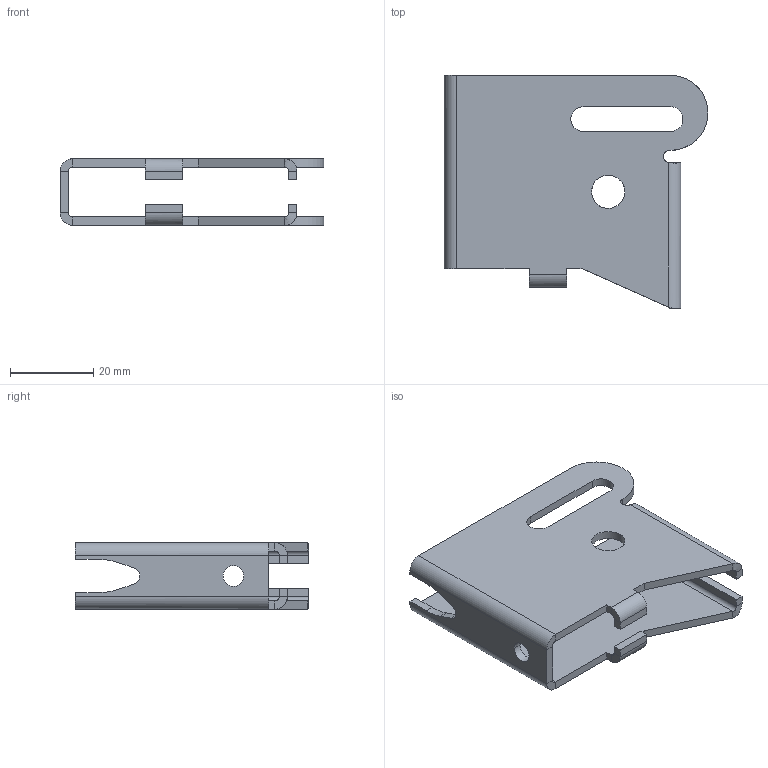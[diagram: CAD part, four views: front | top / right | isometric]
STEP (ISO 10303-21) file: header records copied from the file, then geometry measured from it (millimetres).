
FILE_DESCRIPTION(('CATIA V5 STEP Exchange'),'2;1');
FILE_NAME('G:\Pince Molly Internet\Industrialisation des Produits\TP1\Maquette numérique\CATIA\Coulisseau.stp','2009-12-22T09:49:39+00:00',('none'),('none'),'CATIA Version 5 Release 16 (IN-10)','CATIA V5 STEP AP203','none');
FILE_SCHEMA(('CONFIG_CONTROL_DESIGN'));
Length unit declared in the file: millimetre
Products named in the file (1): Coulisseau
Bounding box: 63.5 x 56.07 x 16 mm (x, y, z)
Volume: 11814 mm3; surface area: 13090.4 mm2
Topology: 1 solids, 1 shells, 90 faces, 216 edges, 128 vertices
Faces by surface type: plane 57, cylinder 29, bspline 4
Entity records: 3234 total; most frequent: CARTESIAN_POINT 1261, ORIENTED_EDGE 432, DIRECTION 319, EDGE_CURVE 216, VECTOR 155, LINE 155, VERTEX_POINT 128, EDGE_LOOP 100
